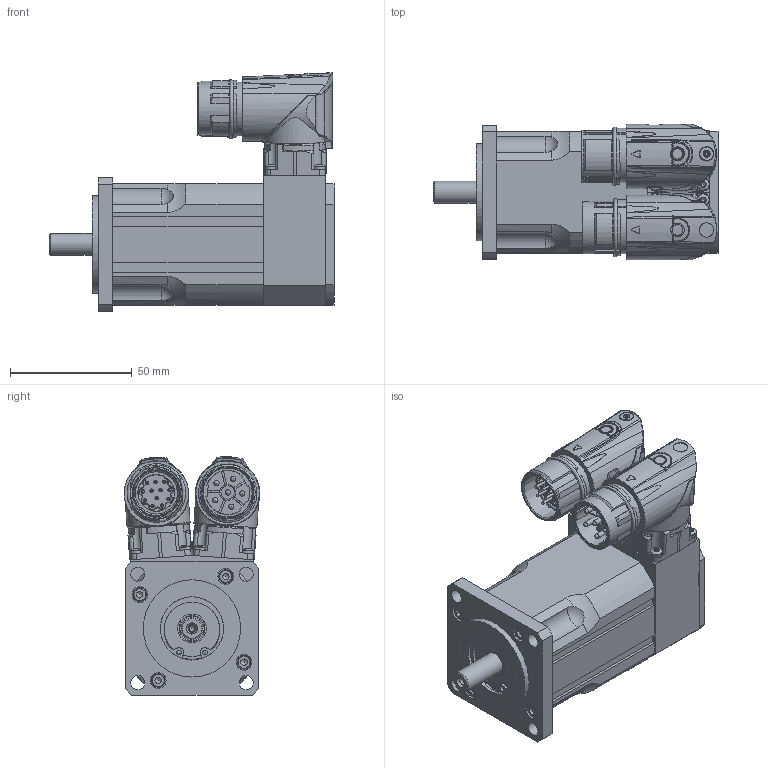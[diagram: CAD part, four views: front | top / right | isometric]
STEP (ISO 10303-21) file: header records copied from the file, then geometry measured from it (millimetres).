
FILE_DESCRIPTION(/* description */ (''),/* implementation_level */ '2;1');
FILE_NAME(/* name */ 'C:\PDF_output\N2057 00 Z_0075_S4_S1_6P_12P.stp',/* time_stamp */ '2020-05-18T10:05:34+02:00',/* author */ ('oslejsek'),/* organization */ (''),/* preprocessor_version */ 'ST-DEVELOPER v18',/* originating_system */ 'Autodesk Inventor 2020',/* authorisation */ '');
FILE_SCHEMA (('AUTOMOTIVE_DESIGN { 1 0 10303 214 3 1 1 }'));
Products named in the file (9): N2057 00 Z_0075_6P_12P; N2057 00 Z_front; N2057 00 Z_0075_rear; BED_0201 Flansch 25x25  6-polig mit Stiften; 124953; 124888; AED_0201_12-polig, Stift; 124888_1; 127323
Assembly tree (8 placements, depth 3):
  N2057 00 Z_0075_6P_12P
    N2057 00 Z_front
    N2057 00 Z_0075_rear
    BED_0201 Flansch 25x25  6-polig mit Stiften
      124953
      124888
    AED_0201_12-polig, Stift
      124888_1
      127323
Bounding box: 117.2 x 55.79 x 98.11 mm (x, y, z)
Volume: 298467.9 mm3; surface area: 57819.9 mm2
Topology: 6 solids, 9 shells, 1751 faces, 4726 edges, 3037 vertices
Faces by surface type: cylinder 764, plane 503, bspline 258, cone 110, torus 80, sphere 36
Full cylindrical faces by diameter (mm): 1 x12, 1.18 x12, 1.2 x12, 2 x8, 2.013 x2, 2.15 x6, 2.208 x8, 2.4 x8, 2.459 x1, 2.5 x8, 2.7 x4, 2.8 x4, 3 x5, 3.1 x4, 3.2 x2, 3.3 x4, 4.5 x2, 5 x4, 5.5 x6, 5.6 x4, 5.8 x4, 5.9 x2, 6.5 x8, 7.53 x1, 9 x1, 9.5 x1, 10 x1, 10.2 x2, 15.2 x1, 17.4 x1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
Entity records: 71010 total; most frequent: CARTESIAN_POINT 25276, ORIENTED_EDGE 9360, DIRECTION 9152, EDGE_CURVE 4680, AXIS2_PLACEMENT_3D 3780, VERTEX_POINT 3037, CIRCLE 2083, EDGE_LOOP 1947
